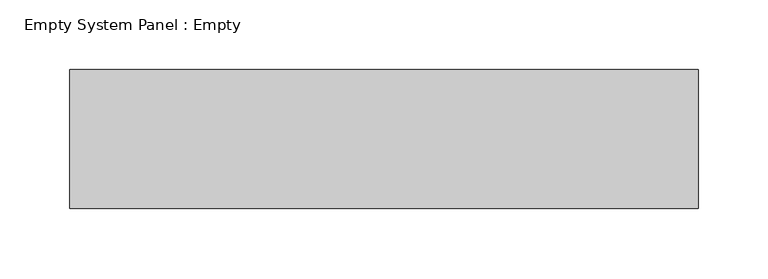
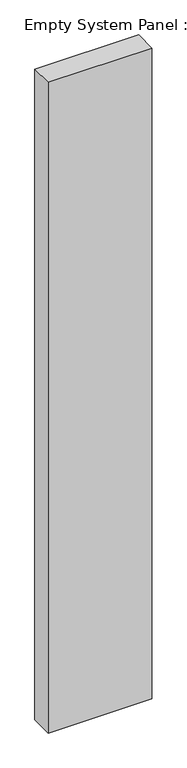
"""IFC4 building model written with IfcOpenShell, lengths in millimetres: plate geometry, Empty System Panel : Empty."""

from ifc_helpers import new_model, si_unit, origin, origin_with_axes, place, context, project, spatial, polyline, outline, extrude, source, transform, mapped, element, save


def empty_system_panel_empty_ae2229f6(model_context):
    return source(origin(), model_context, "Body", "SweptSolid", [
        extrude(outline(polyline([(225.881205, -50.0), (-225.881205, -50.0), (-225.881205, 50.0), (225.881205, 50.0), (225.881205, -50.0)])), origin_with_axes(), (0.0, 0.0, 1.0), 3000.0),
    ])


if __name__ == "__main__":
    model = new_model("IFC4")
    model_context = context("Model", 3, world=origin())
    ifc_project = project(units=[si_unit("LENGTHUNIT", "METRE", prefix="MILLI")], contexts=[model_context])
    site = spatial("IfcSite", under=ifc_project)
    building = spatial("IfcBuilding", under=site)
    placement = place(None, origin())
    empty_system_panel_empty_shape = empty_system_panel_empty_ae2229f6(model_context)
    element("IfcPlate", 1, ObjectType="Empty System Panel : Empty", at=placement, inside=building, context=model_context, shape_type="MappedRepresentation", body=[
        mapped(empty_system_panel_empty_shape, transform((0.0, 0.0, 0.0), x_axis=(1.0, 0.0, 0.0), y_axis=(0.0, 1.0, 0.0), z_axis=(0.0, 0.0, 1.0))),
    ])
    save(model, "model.ifc")
